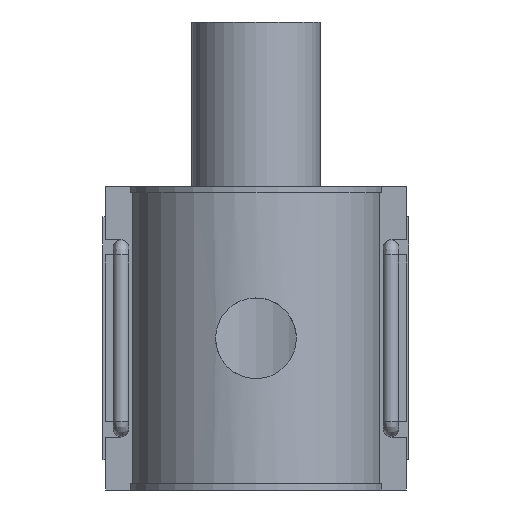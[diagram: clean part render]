
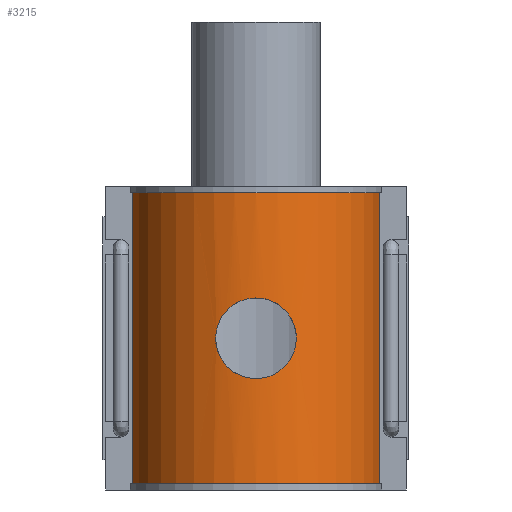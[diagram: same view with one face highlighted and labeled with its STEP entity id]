
A CAD part, front view. The second image highlights one B-rep face of the part: STEP entity #3215.
In plain terms, the highlighted cylindrical face has radius 48.75 mm (diameter 97.5 mm), a partial arc.
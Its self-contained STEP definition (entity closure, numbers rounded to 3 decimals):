
#50=FACE_BOUND('',#438,.T.);
#196=B_SPLINE_CURVE_WITH_KNOTS('',3,(#4772,#4773,#4774,#4775,#4776,#4777,
#4778,#4779,#4780,#4781,#4782,#4783,#4784,#4785,#4786,#4787,#4788,#4789,
#4790,#4791,#4792,#4793,#4794,#4795,#4796,#4797,#4798,#4799,#4800,#4801),
 .UNSPECIFIED.,.F.,.F.,(4,2,2,2,2,2,2,2,2,2,2,2,2,2,4),(0.,0.298,
0.595,1.191,1.488,1.786,2.083,
2.381,2.679,2.976,3.274,3.571,
4.167,4.464,4.762),.UNSPECIFIED.);
#197=B_SPLINE_CURVE_WITH_KNOTS('',3,(#4802,#4803,#4804,#4805,#4806,#4807,
#4808,#4809,#4810,#4811,#4812,#4813,#4814,#4815,#4816,#4817,#4818,#4819,
#4820,#4821,#4822,#4823,#4824,#4825,#4826,#4827,#4828,#4829,#4830,#4831),
 .UNSPECIFIED.,.F.,.F.,(4,2,2,2,2,2,2,2,2,2,2,2,2,2,4),(4.762,
5.06,5.357,5.953,6.25,6.548,
6.845,7.143,7.44,7.738,8.036,
8.333,8.929,9.226,9.524),
 .UNSPECIFIED.);
#246=FACE_OUTER_BOUND('',#437,.T.);
#437=EDGE_LOOP('',(#2302,#2303,#2304,#2305));
#438=EDGE_LOOP('',(#2306,#2307));
#640=CIRCLE('',#3425,48.75);
#648=CIRCLE('',#3439,48.75);
#789=LINE('',#5128,#1092);
#824=LINE('',#5347,#1127);
#1092=VECTOR('',#3798,10.);
#1127=VECTOR('',#3875,10.);
#1387=VERTEX_POINT('',#4769);
#1388=VERTEX_POINT('',#4771);
#1404=VERTEX_POINT('',#5113);
#1405=VERTEX_POINT('',#5115);
#1409=VERTEX_POINT('',#5127);
#1426=VERTEX_POINT('',#5170);
#1704=EDGE_CURVE('',#1388,#1387,#196,.T.);
#1705=EDGE_CURVE('',#1387,#1388,#197,.T.);
#1726=EDGE_CURVE('',#1404,#1405,#640,.T.);
#1731=EDGE_CURVE('',#1404,#1409,#789,.T.);
#1753=EDGE_CURVE('',#1426,#1409,#648,.T.);
#1788=EDGE_CURVE('',#1405,#1426,#824,.T.);
#2302=ORIENTED_EDGE('',*,*,#1726,.T.);
#2303=ORIENTED_EDGE('',*,*,#1788,.T.);
#2304=ORIENTED_EDGE('',*,*,#1753,.T.);
#2305=ORIENTED_EDGE('',*,*,#1731,.F.);
#2306=ORIENTED_EDGE('',*,*,#1704,.T.);
#2307=ORIENTED_EDGE('',*,*,#1705,.T.);
#3158=CYLINDRICAL_SURFACE('',#3449,48.75);
#3215=ADVANCED_FACE('',(#246,#50),#3158,.T.);
#3425=AXIS2_PLACEMENT_3D('',#5117,#3788,#3789);
#3439=AXIS2_PLACEMENT_3D('',#5171,#3835,#3836);
#3449=AXIS2_PLACEMENT_3D('',#5348,#3876,#3877);
#3788=DIRECTION('center_axis',(0.,0.,1.));
#3789=DIRECTION('ref_axis',(1.,0.,0.));
#3798=DIRECTION('',(0.,0.,1.));
#3835=DIRECTION('center_axis',(0.,0.,-1.));
#3836=DIRECTION('ref_axis',(1.,0.,0.));
#3875=DIRECTION('',(0.,0.,1.));
#3876=DIRECTION('center_axis',(0.,0.,1.));
#3877=DIRECTION('ref_axis',(1.,0.,0.));
#4769=CARTESIAN_POINT('',(-15.68,-46.16,0.));
#4771=CARTESIAN_POINT('',(15.68,-46.16,0.));
#4772=CARTESIAN_POINT('Ctrl Pts',(15.68,-46.16,0.));
#4773=CARTESIAN_POINT('Ctrl Pts',(15.68,-46.16,-0.992));
#4774=CARTESIAN_POINT('Ctrl Pts',(15.584,-46.192,-2.016));
#4775=CARTESIAN_POINT('Ctrl Pts',(15.184,-46.326,-4.048));
#4776=CARTESIAN_POINT('Ctrl Pts',(14.879,-46.426,-5.055));
#4777=CARTESIAN_POINT('Ctrl Pts',(13.676,-46.8,-7.949));
#4778=CARTESIAN_POINT('Ctrl Pts',(12.472,-47.149,-9.703));
#4779=CARTESIAN_POINT('Ctrl Pts',(10.395,-47.634,-11.779));
#4780=CARTESIAN_POINT('Ctrl Pts',(9.613,-47.801,-12.43));
#4781=CARTESIAN_POINT('Ctrl Pts',(7.908,-48.112,-13.579));
#4782=CARTESIAN_POINT('Ctrl Pts',(6.985,-48.257,-14.077));
#4783=CARTESIAN_POINT('Ctrl Pts',(5.055,-48.497,-14.88));
#4784=CARTESIAN_POINT('Ctrl Pts',(4.047,-48.592,-15.184));
#4785=CARTESIAN_POINT('Ctrl Pts',(2.015,-48.719,-15.584));
#4786=CARTESIAN_POINT('Ctrl Pts',(0.992,-48.75,-15.68));
#4787=CARTESIAN_POINT('Ctrl Pts',(-0.992,-48.75,-15.68));
#4788=CARTESIAN_POINT('Ctrl Pts',(-2.015,-48.719,-15.584));
#4789=CARTESIAN_POINT('Ctrl Pts',(-4.047,-48.592,-15.184));
#4790=CARTESIAN_POINT('Ctrl Pts',(-5.055,-48.497,-14.88));
#4791=CARTESIAN_POINT('Ctrl Pts',(-6.985,-48.257,-14.077));
#4792=CARTESIAN_POINT('Ctrl Pts',(-7.908,-48.112,-13.579));
#4793=CARTESIAN_POINT('Ctrl Pts',(-9.613,-47.801,-12.43));
#4794=CARTESIAN_POINT('Ctrl Pts',(-10.395,-47.634,-11.779));
#4795=CARTESIAN_POINT('Ctrl Pts',(-12.472,-47.149,-9.703));
#4796=CARTESIAN_POINT('Ctrl Pts',(-13.676,-46.8,-7.949));
#4797=CARTESIAN_POINT('Ctrl Pts',(-14.879,-46.426,-5.055));
#4798=CARTESIAN_POINT('Ctrl Pts',(-15.184,-46.326,-4.048));
#4799=CARTESIAN_POINT('Ctrl Pts',(-15.584,-46.192,-2.016));
#4800=CARTESIAN_POINT('Ctrl Pts',(-15.68,-46.16,-0.992));
#4801=CARTESIAN_POINT('Ctrl Pts',(-15.68,-46.16,0.));
#4802=CARTESIAN_POINT('Ctrl Pts',(-15.68,-46.16,0.));
#4803=CARTESIAN_POINT('Ctrl Pts',(-15.68,-46.16,0.992));
#4804=CARTESIAN_POINT('Ctrl Pts',(-15.584,-46.192,2.016));
#4805=CARTESIAN_POINT('Ctrl Pts',(-15.184,-46.326,4.048));
#4806=CARTESIAN_POINT('Ctrl Pts',(-14.879,-46.426,5.055));
#4807=CARTESIAN_POINT('Ctrl Pts',(-13.676,-46.8,7.949));
#4808=CARTESIAN_POINT('Ctrl Pts',(-12.472,-47.149,9.703));
#4809=CARTESIAN_POINT('Ctrl Pts',(-10.395,-47.634,11.779));
#4810=CARTESIAN_POINT('Ctrl Pts',(-9.613,-47.801,12.43));
#4811=CARTESIAN_POINT('Ctrl Pts',(-7.908,-48.112,13.579));
#4812=CARTESIAN_POINT('Ctrl Pts',(-6.985,-48.257,14.077));
#4813=CARTESIAN_POINT('Ctrl Pts',(-5.055,-48.497,14.88));
#4814=CARTESIAN_POINT('Ctrl Pts',(-4.047,-48.592,15.184));
#4815=CARTESIAN_POINT('Ctrl Pts',(-2.015,-48.719,15.584));
#4816=CARTESIAN_POINT('Ctrl Pts',(-0.992,-48.75,15.68));
#4817=CARTESIAN_POINT('Ctrl Pts',(0.992,-48.75,15.68));
#4818=CARTESIAN_POINT('Ctrl Pts',(2.015,-48.719,15.584));
#4819=CARTESIAN_POINT('Ctrl Pts',(4.047,-48.592,15.184));
#4820=CARTESIAN_POINT('Ctrl Pts',(5.055,-48.497,14.88));
#4821=CARTESIAN_POINT('Ctrl Pts',(6.985,-48.257,14.077));
#4822=CARTESIAN_POINT('Ctrl Pts',(7.908,-48.112,13.579));
#4823=CARTESIAN_POINT('Ctrl Pts',(9.613,-47.801,12.43));
#4824=CARTESIAN_POINT('Ctrl Pts',(10.395,-47.634,11.779));
#4825=CARTESIAN_POINT('Ctrl Pts',(12.472,-47.149,9.703));
#4826=CARTESIAN_POINT('Ctrl Pts',(13.676,-46.8,7.949));
#4827=CARTESIAN_POINT('Ctrl Pts',(14.879,-46.426,5.055));
#4828=CARTESIAN_POINT('Ctrl Pts',(15.184,-46.326,4.048));
#4829=CARTESIAN_POINT('Ctrl Pts',(15.584,-46.192,2.016));
#4830=CARTESIAN_POINT('Ctrl Pts',(15.68,-46.16,0.992));
#4831=CARTESIAN_POINT('Ctrl Pts',(15.68,-46.16,0.));
#5113=CARTESIAN_POINT('',(-47.84,-9.375,-56.64));
#5115=CARTESIAN_POINT('',(47.84,-9.375,-56.64));
#5117=CARTESIAN_POINT('Origin',(0.,0.,-56.64));
#5127=CARTESIAN_POINT('',(-47.84,-9.375,56.64));
#5128=CARTESIAN_POINT('',(-47.84,-9.375,0.));
#5170=CARTESIAN_POINT('',(47.84,-9.375,56.64));
#5171=CARTESIAN_POINT('Origin',(0.,0.,56.64));
#5347=CARTESIAN_POINT('',(47.84,-9.375,0.));
#5348=CARTESIAN_POINT('Origin',(0.,0.,0.));
